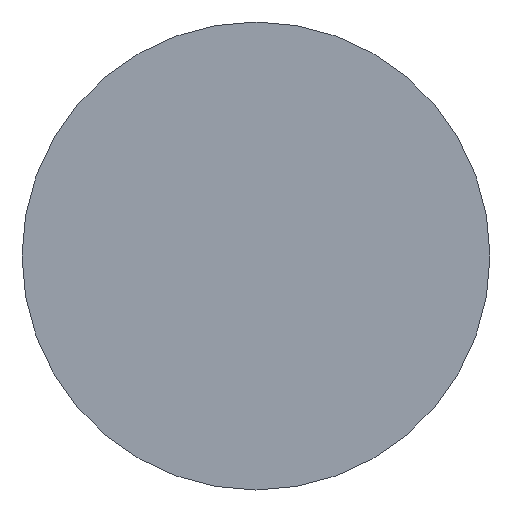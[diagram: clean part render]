
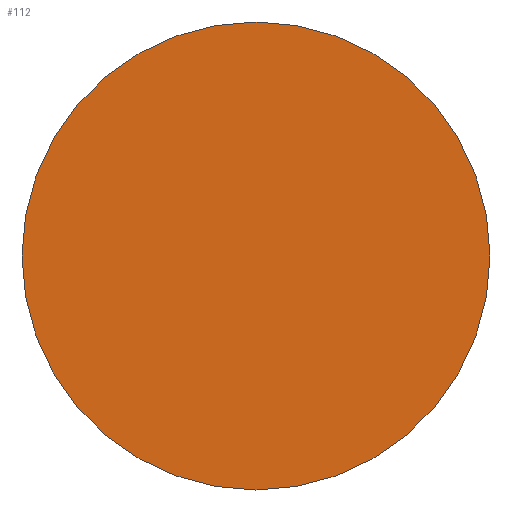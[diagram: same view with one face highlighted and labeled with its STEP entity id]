
A CAD part, left-side view. The second image highlights one B-rep face of the part: STEP entity #112.
In plain terms, the highlighted planar face has unit normal (-1, 0, 0).
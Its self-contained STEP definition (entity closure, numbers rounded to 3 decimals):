
#11 = EDGE_LOOP ( 'NONE', ( #30, #27 ) ) ;
#16 = CIRCLE ( 'NONE', #120, 5.5 ) ;
#17 = CIRCLE ( 'NONE', #133, 5.5 ) ;
#27 = ORIENTED_EDGE ( 'NONE', *, *, #119, .T. ) ;
#30 = ORIENTED_EDGE ( 'NONE', *, *, #132, .T. ) ;
#32 = FACE_OUTER_BOUND ( 'NONE', #11, .T. ) ;
#49 = CARTESIAN_POINT ( 'NONE',  ( -87., 0., -5.5 ) ) ;
#69 = DIRECTION ( 'NONE',  ( 0., 0., 1. ) ) ;
#70 = DIRECTION ( 'NONE',  ( -1., 0., 0. ) ) ;
#72 = CARTESIAN_POINT ( 'NONE',  ( -87., 0., 0. ) ) ;
#76 = DIRECTION ( 'NONE',  ( 0., 0., 1. ) ) ;
#77 = DIRECTION ( 'NONE',  ( -1., 0., 0. ) ) ;
#79 = CARTESIAN_POINT ( 'NONE',  ( -87., 0., 0. ) ) ;
#92 = DIRECTION ( 'NONE',  ( 0., 0., 1. ) ) ;
#93 = DIRECTION ( 'NONE',  ( -1., 0., 0. ) ) ;
#96 = CARTESIAN_POINT ( 'NONE',  ( -87., 0., 5.5 ) ) ;
#105 = VERTEX_POINT ( 'NONE', #49 ) ;
#106 = VERTEX_POINT ( 'NONE', #96 ) ;
#108 = CARTESIAN_POINT ( 'NONE',  ( -87., 0., 0. ) ) ;
#110 = PLANE ( 'NONE',  #125 ) ;
#112 = ADVANCED_FACE ( 'NONE', ( #32 ), #110, .T. ) ;
#119 = EDGE_CURVE ( 'NONE', #105, #106, #16, .T. ) ;
#120 = AXIS2_PLACEMENT_3D ( 'NONE', #79, #77, #76 ) ;
#125 = AXIS2_PLACEMENT_3D ( 'NONE', #108, #93, #92 ) ;
#132 = EDGE_CURVE ( 'NONE', #106, #105, #17, .T. ) ;
#133 = AXIS2_PLACEMENT_3D ( 'NONE', #72, #70, #69 ) ;
